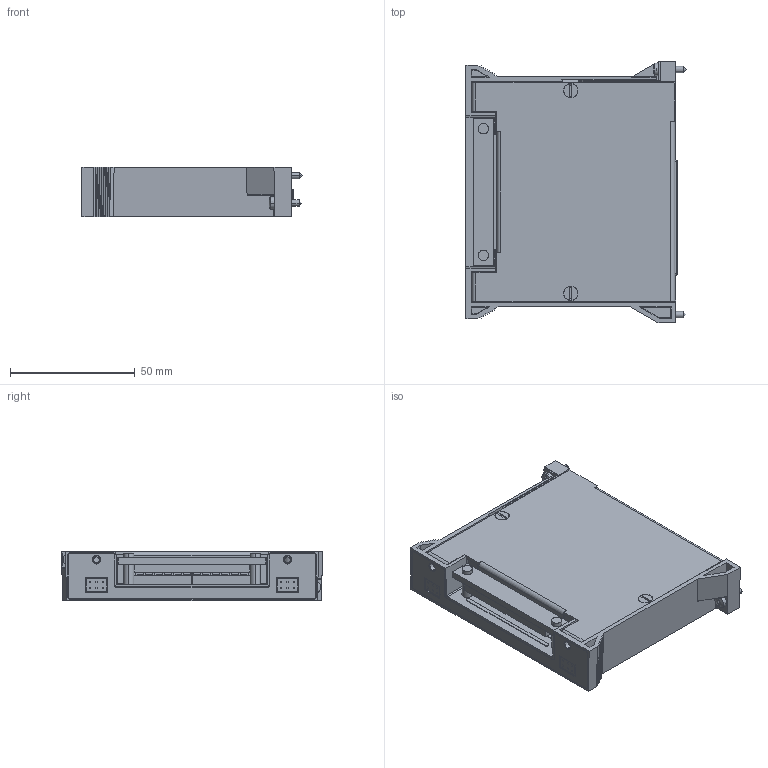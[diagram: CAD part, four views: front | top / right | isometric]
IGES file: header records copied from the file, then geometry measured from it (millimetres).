
Start section:  PTC IGES file: cu_tb-260x.igs
Global section: file name: cu_tb-260x.igs; native system: Pro/ENGINEER by Parametric Technology Corporation; preprocessor: 2010230; author: jjorden; organization: Unknown; date: 20110810.111243; units: inch
Bounding box: 88.3 x 104.78 x 20.02 mm (x, y, z)
Surface area: 69070.7 mm2 (no closed solid volume)
Topology: 0 solids, 0 shells, 2182 faces, 11576 edges, 11472 vertices
Faces by surface type: bspline 1612, revolution 570
